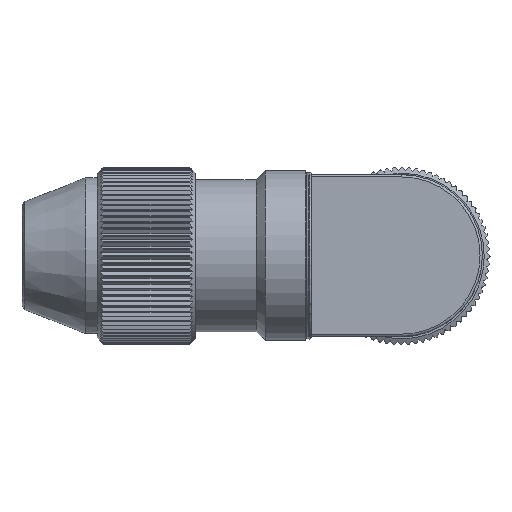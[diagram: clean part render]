
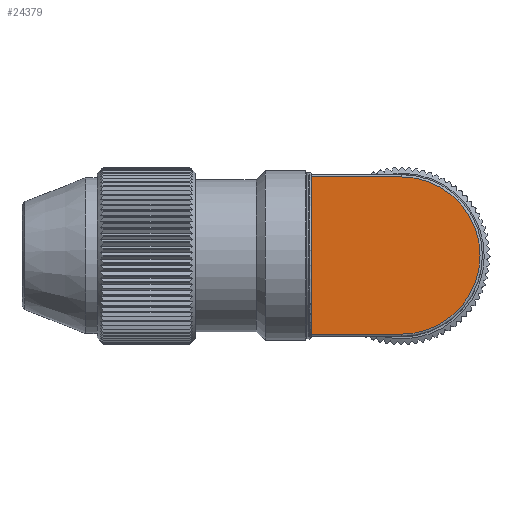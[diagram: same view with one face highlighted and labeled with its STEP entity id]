
A CAD part, top view. The second image highlights one B-rep face of the part: STEP entity #24379.
In plain terms, the highlighted planar face has unit normal (0, 0, 1).
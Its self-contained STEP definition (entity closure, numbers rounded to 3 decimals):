
#123=CARTESIAN_POINT('',(-7.8,-1.002,7.));
#124=VERTEX_POINT('',#123);
#125=CARTESIAN_POINT('',(-7.8,1.002,7.));
#126=VERTEX_POINT('',#125);
#127=CARTESIAN_POINT('',(-7.8,-1.002,7.));
#128=DIRECTION('',(0.0,1.0,0.0));
#129=VECTOR('',#128,2.003);
#130=LINE('',#127,#129);
#131=EDGE_CURVE('',#124,#126,#130,.T.);
#11251=CARTESIAN_POINT('',(-7.8,-6.8,7.));
#11252=VERTEX_POINT('',#11251);
#11260=CARTESIAN_POINT('',(-7.8,-6.8,7.));
#11261=DIRECTION('',(0.0,1.0,0.0));
#11262=VECTOR('',#11261,5.798);
#11263=LINE('',#11260,#11262);
#11264=EDGE_CURVE('',#11252,#124,#11263,.T.);
#11275=CARTESIAN_POINT('',(-7.8,6.8,7.));
#11276=VERTEX_POINT('',#11275);
#11277=CARTESIAN_POINT('',(-7.8,1.002,7.));
#11278=DIRECTION('',(0.0,1.0,0.0));
#11279=VECTOR('',#11278,5.798);
#11280=LINE('',#11277,#11279);
#11281=EDGE_CURVE('',#126,#11276,#11280,.T.);
#23211=CARTESIAN_POINT('',(0.0,-6.8,7.));
#23212=VERTEX_POINT('',#23211);
#23220=CARTESIAN_POINT('',(0.0,-6.8,7.));
#23221=DIRECTION('',(-1.0,0.0,0.0));
#23222=VECTOR('',#23221,7.8);
#23223=LINE('',#23220,#23222);
#23224=EDGE_CURVE('',#23212,#11252,#23223,.T.);
#23236=CARTESIAN_POINT('',(0.,6.8,7.));
#23237=VERTEX_POINT('',#23236);
#23245=CARTESIAN_POINT('',(0.,0.0,7.));
#23246=DIRECTION('',(0.0,0.0,-1.0));
#23247=DIRECTION('',(1.0,0.0,0.0));
#23248=AXIS2_PLACEMENT_3D('',#23245,#23246,#23247);
#23249=CIRCLE('',#23248,6.8);
#23250=EDGE_CURVE('',#23237,#23212,#23249,.T.);
#23269=CARTESIAN_POINT('',(-7.8,6.8,7.));
#23270=DIRECTION('',(1.0,0.0,0.0));
#23271=VECTOR('',#23270,7.8);
#23272=LINE('',#23269,#23271);
#23273=EDGE_CURVE('',#11276,#23237,#23272,.T.);
#24366=CARTESIAN_POINT('',(-1.583,0.,7.));
#24367=DIRECTION('',(0.0,0.0,1.0));
#24368=DIRECTION('',(1.0,0.0,0.0));
#24369=AXIS2_PLACEMENT_3D('',#24366,#24367,#24368);
#24370=PLANE('',#24369);
#24371=ORIENTED_EDGE('',*,*,#23273,.F.);
#24372=ORIENTED_EDGE('',*,*,#11281,.F.);
#24373=ORIENTED_EDGE('',*,*,#131,.F.);
#24374=ORIENTED_EDGE('',*,*,#11264,.F.);
#24375=ORIENTED_EDGE('',*,*,#23224,.F.);
#24376=ORIENTED_EDGE('',*,*,#23250,.F.);
#24377=EDGE_LOOP('',(#24371,#24372,#24373,#24374,#24375,#24376));
#24378=FACE_OUTER_BOUND('',#24377,.T.);
#24379=ADVANCED_FACE('',(#24378),#24370,.T.);
